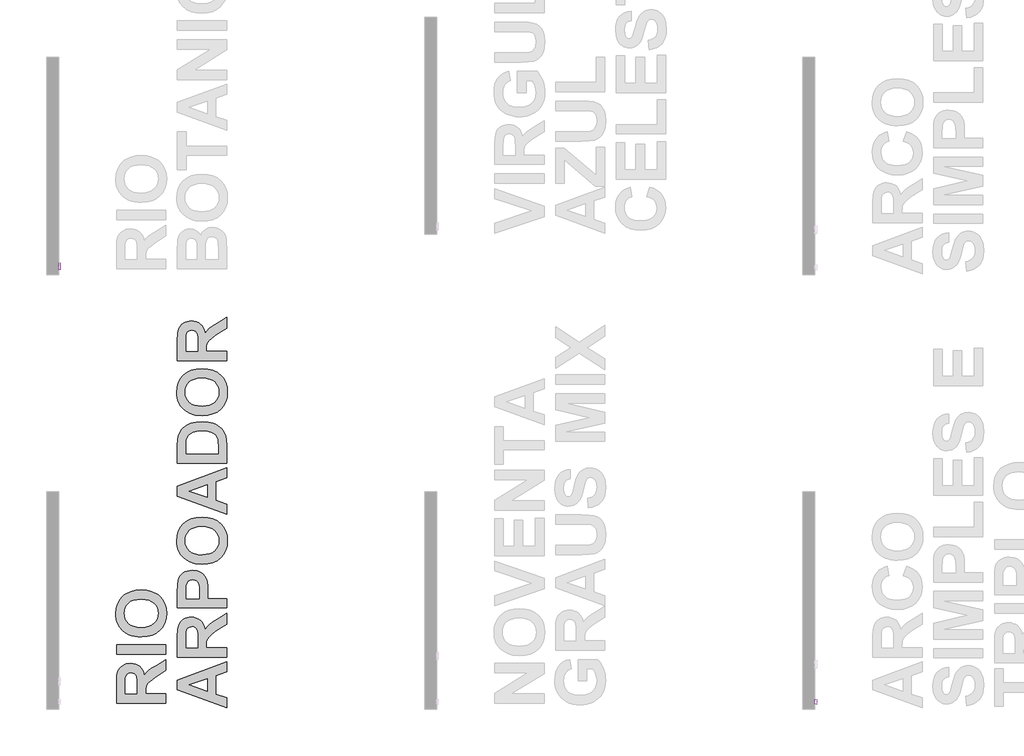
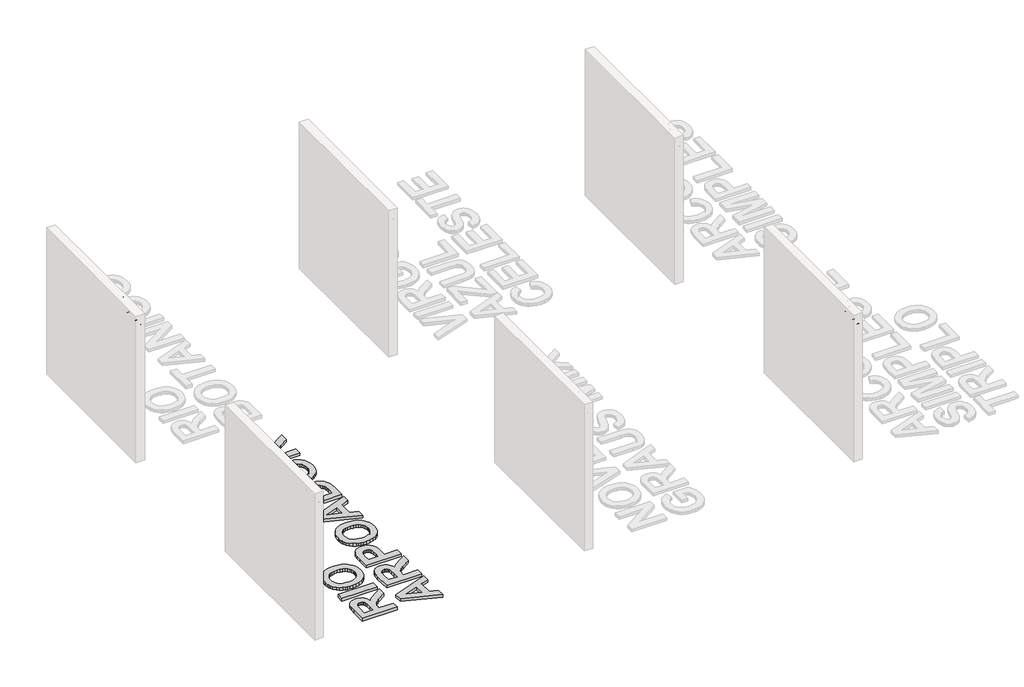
# One storey, part 3 of 12: 4 proxies.
"""IFC4 building model written with IfcOpenShell, lengths in millimetres."""

from ifc_helpers import new_model, si_unit, frame, origin, origin_with_axes, place, context, project, spatial, polyline, outline, extrude, element, save

model = new_model("IFC4")

# Units and contexts
model_context = context("Model", 3, world=origin())
ifc_project = project(units=[si_unit("LENGTHUNIT", "METRE", prefix="MILLI")], contexts=[model_context])

# Site, building, storey
site = spatial("IfcSite", under=ifc_project)
building = spatial("IfcBuilding", under=site)
storey = spatial("IfcBuildingStorey", under=building, Name="PORTOBELLO - SHOWROOM", Elevation=0.0)

# Proxies
placement = place(None, origin())
element("IfcBuildingElementProxy", 1, Name="10mm Arial", ObjectType="10mm Arial", at=placement, inside=storey, context=model_context, shape_type="SweptSolid", body=[
    extrude(outline(polyline([(-3764.9115358, 2548.8308244), (-3764.9115358, 2649.2871345), (-3721.6240877, 2649.2871345), (-3701.525468, 2646.5770705), (-3690.5380591, 2636.9876132), (-3686.4300435, 2621.7940868), (-3688.1314977, 2611.8980611), (-3693.2358604, 2603.6942926), (-3701.8964157, 2597.679422), (-3714.2664478, 2594.3500899), (-3707.1295371, 2588.9790128), (-3696.9514686, 2576.054092), (-3680.2005751, 2548.8308244), (-3694.7932275, 2548.8308244), (-3707.8653011, 2569.6529453), (-3717.3076056, 2583.4362574), (-3723.9417443, 2589.9477687), (-3729.9136953, 2592.3390017), (-3737.1977588, 2592.7804601), (-3752.354497, 2592.7804601), (-3752.354497, 2548.8308244), (-3764.9115358, 2548.8308244)]), holes=[polyline([(-3752.354497, 2605.3374988), (-3724.2483126, 2605.3374988), (-3709.9131775, 2607.1155952), (-3701.7707227, 2612.8055033), (-3698.9870823, 2621.3281029), (-3704.2968457, 2632.3890882), (-3721.0845275, 2636.7300958), (-3752.354497, 2636.7300958), (-3752.354497, 2605.3374988)])]), frame((3902.9163978, 0.0, 0.0), z_axis=(1.0, 0.0, 0.0), x_axis=(0.0, 1.0, 0.0)), (0.0, 0.0, 1.0), 20.0),
    extrude(outline(polyline([(3922.9163978, -3653.4678167), (3922.9163978, -3666.0248555), (3902.9163978, -3666.0248555), (3902.9163978, -3653.4678167), (3922.9163978, -3653.4678167)])), frame((0.0, 0.0, 2636.7300958), z_axis=(0.0, 0.0, 1.0), x_axis=(1.0, 0.0, 0.0)), (0.0, 0.0, 1.0), 12.5570388),
    extrude(outline(polyline([(3922.9163978, -3653.4678167), (3922.9163978, -3666.0248555), (3902.9163978, -3666.0248555), (3902.9163978, -3653.4678167), (3922.9163978, -3653.4678167)])), frame((0.0, 0.0, 2548.8308244), z_axis=(0.0, 0.0, 1.0), x_axis=(1.0, 0.0, 0.0)), (0.0, 0.0, 1.0), 73.7726028),
    extrude(outline(polyline([(-3637.7715183, 2585.7171258), (-3635.0553229, 2603.5042202), (-3626.9067367, 2616.0060767), (-3616.8390328, 2622.1313119), (-3604.784766, 2624.173057), (-3591.5931308, 2621.6867878), (-3581.0563774, 2614.2279804), (-3574.1493929, 2602.3852458), (-3571.8470647, 2586.7471954), (-3575.9182922, 2564.4044955), (-3587.7763551, 2551.7616176), (-3604.784766, 2547.2611945), (-3618.1358168, 2549.7382666), (-3628.6603075, 2557.1694829), (-3635.4937156, 2569.2605379), (-3637.7715183, 2585.7171258)]), holes=[polyline([(-3625.2144795, 2585.7416512), (-3623.7613456, 2574.3771633), (-3619.401944, 2566.2806937), (-3612.8413817, 2561.4338484), (-3604.784766, 2559.8182333), (-3596.7649385, 2561.4430455), (-3590.216639, 2566.3174819), (-3585.8572374, 2574.5212504), (-3584.4041035, 2586.1340587), (-3585.8664344, 2597.1674529), (-3590.2534272, 2605.1535578), (-3596.8109238, 2610.0004031), (-3604.784766, 2611.6160182), (-3612.8413817, 2610.0065345), (-3619.401944, 2605.1780833), (-3623.7613456, 2597.1000078), (-3625.2144795, 2585.7416512)])]), frame((3902.9163978, 0.0, 0.0), z_axis=(1.0, 0.0, 0.0), x_axis=(0.0, 1.0, 0.0)), (0.0, 0.0, 1.0), 20.0),
    extrude(outline(polyline([(-3516.9100201, 2548.8308244), (-3516.9100201, 2649.2871345), (-3478.5767162, 2649.2871345), (-3459.8024717, 2646.3318158), (-3448.716961, 2637.2451306), (-3444.7070472, 2624.3937862), (-3448.0792988, 2612.6583505), (-3458.2696301, 2603.767869), (-3445.8965323, 2594.3991409), (-3441.5677875, 2578.7764188), (-3444.5231062, 2565.2751496), (-3451.8439579, 2555.6611668), (-3462.7700532, 2550.5598698), (-3478.8710218, 2548.8308244), (-3516.9100201, 2548.8308244)]), holes=[polyline([(-3504.3529814, 2561.3878632), (-3478.6012417, 2561.3878632), (-3469.2815645, 2561.8783725), (-3461.3966271, 2564.612962), (-3456.1727027, 2570.1925056), (-3454.1248263, 2578.6537915), (-3456.528322, 2588.4149271), (-3464.3151576, 2594.2397253), (-3479.827515, 2595.9197198), (-3504.3529814, 2595.9197198), (-3504.3529814, 2561.3878632)]), polyline([(-3504.3529814, 2608.4767585), (-3481.4216703, 2608.4767585), (-3468.0307657, 2609.5558791), (-3459.97415, 2614.2034549), (-3457.264086, 2622.382698), (-3459.790209, 2630.5742037), (-3467.0252216, 2635.4179833), (-3483.1629784, 2636.7300958), (-3504.3529814, 2636.7300958), (-3504.3529814, 2608.4767585)])]), frame((3902.9163978, 0.0, 0.0), z_axis=(1.0, 0.0, 0.0), x_axis=(0.0, 1.0, 0.0)), (0.0, 0.0, 1.0), 20.0),
    extrude(outline(polyline([(-3429.0107487, 2585.7171258), (-3426.2945533, 2603.5042202), (-3418.1459672, 2616.0060767), (-3408.0782632, 2622.1313119), (-3396.0239965, 2624.173057), (-3382.8323613, 2621.6867878), (-3372.2956078, 2614.2279804), (-3365.3886234, 2602.3852458), (-3363.0862952, 2586.7471954), (-3367.1575226, 2564.4044955), (-3379.0155856, 2551.7616176), (-3396.0239965, 2547.2611945), (-3409.3750473, 2549.7382666), (-3419.899538, 2557.1694829), (-3426.7329461, 2569.2605379), (-3429.0107487, 2585.7171258)]), holes=[polyline([(-3416.45371, 2585.7416512), (-3415.0005761, 2574.3771633), (-3410.6411745, 2566.2806937), (-3404.0806122, 2561.4338484), (-3396.0239965, 2559.8182333), (-3388.004169, 2561.4430455), (-3381.4558695, 2566.3174819), (-3377.0964679, 2574.5212504), (-3375.643334, 2586.1340587), (-3377.1056649, 2597.1674529), (-3381.4926577, 2605.1535578), (-3388.0501543, 2610.0004031), (-3396.0239965, 2611.6160182), (-3404.0806122, 2610.0065345), (-3410.6411745, 2605.1780833), (-3415.0005761, 2597.1000078), (-3416.45371, 2585.7416512)])]), frame((3902.9163978, 0.0, 0.0), z_axis=(1.0, 0.0, 0.0), x_axis=(0.0, 1.0, 0.0)), (0.0, 0.0, 1.0), 20.0),
    extrude(outline(polyline([(-3322.2759192, 2559.3031985), (-3320.7062894, 2548.4629424), (-3330.099543, 2547.2611945), (-3340.620968, 2549.3458592), (-3345.8694178, 2554.8150382), (-3347.3899968, 2569.0643341), (-3347.3899968, 2610.0463884), (-3356.8077758, 2610.0463884), (-3356.8077758, 2622.6034272), (-3347.3899968, 2622.6034272), (-3347.3899968, 2640.531543), (-3334.832958, 2647.9137084), (-3334.832958, 2622.6034272), (-3322.2759192, 2622.6034272), (-3322.2759192, 2610.0463884), (-3334.832958, 2610.0463884), (-3334.832958, 2569.4322161), (-3334.1707704, 2562.957493), (-3332.0247921, 2560.6643619), (-3327.7450982, 2559.8182333), (-3322.2759192, 2559.3031985)])), frame((3902.9163978, 0.0, 0.0), z_axis=(1.0, 0.0, 0.0), x_axis=(0.0, 1.0, 0.0)), (0.0, 0.0, 1.0), 20.0),
    extrude(outline(polyline([(-3262.6299851, 2558.2486035), (-3274.8068791, 2549.7382666), (-3288.2590974, 2547.2611945), (-3298.7529313, 2548.7511166), (-3306.4937816, 2553.2208829), (-3311.2670505, 2560.0083057), (-3312.8581401, 2568.4511975), (-3310.4546444, 2578.3840113), (-3304.1393369, 2585.5944984), (-3295.3469572, 2589.7147768), (-3284.4821756, 2591.6032377), (-3262.7035615, 2595.9197198), (-3262.6299851, 2598.7156229), (-3266.0880758, 2607.9862492), (-3279.9694898, 2611.6160182), (-3292.6736813, 2609.2002598), (-3298.7314715, 2600.6286093), (-3311.2885103, 2602.1982392), (-3305.8561195, 2614.4609723), (-3294.9177615, 2621.646934), (-3278.350809, 2624.173057), (-3263.1327571, 2621.9412396), (-3254.5365812, 2616.3371705), (-3250.686083, 2607.8145709), (-3250.0729463, 2596.827162), (-3250.0729463, 2581.20444), (-3249.4352842, 2559.3890376), (-3246.9336866, 2548.8308244), (-3259.4907254, 2548.8308244), (-3262.6299851, 2558.2486035)]), holes=[polyline([(-3262.6299851, 2583.362681), (-3282.8880203, 2579.5121828), (-3293.6914882, 2577.4765691), (-3298.5843187, 2574.1656311), (-3300.3011014, 2569.3341142), (-3296.5609678, 2562.5405601), (-3285.5858216, 2559.8182333), (-3272.88163, 2562.8226029), (-3264.6901242, 2570.0944037), (-3262.7035615, 2579.8064884), (-3262.6299851, 2583.362681)])]), frame((3902.9163978, 0.0, 0.0), z_axis=(1.0, 0.0, 0.0), x_axis=(0.0, 1.0, 0.0)), (0.0, 0.0, 1.0), 20.0),
    extrude(outline(polyline([(-3232.807018, 2548.8308244), (-3232.807018, 2622.6034272), (-3220.2499792, 2622.6034272), (-3220.2499792, 2612.3027313), (-3210.6482591, 2621.2054756), (-3197.5393974, 2624.173057), (-3185.6813344, 2621.781824), (-3177.5879305, 2615.5033046), (-3173.8232714, 2606.2694666), (-3173.1610838, 2594.1293607), (-3173.1610838, 2548.8308244), (-3185.7181226, 2548.8308244), (-3185.7181226, 2592.4371035), (-3187.1651251, 2603.5471398), (-3192.2786849, 2609.420989), (-3200.8993863, 2611.6160182), (-3214.5232828, 2606.6863995), (-3218.8183051, 2599.5433574), (-3220.2499792, 2587.9734687), (-3220.2499792, 2548.8308244), (-3232.807018, 2548.8308244)])), frame((3902.9163978, 0.0, 0.0), z_axis=(1.0, 0.0, 0.0), x_axis=(0.0, 1.0, 0.0)), (0.0, 0.0, 1.0), 20.0),
    extrude(outline(polyline([(3922.9163978, -3143.3381168), (3922.9163978, -3155.8951555), (3902.9163978, -3155.8951555), (3902.9163978, -3143.3381168), (3922.9163978, -3143.3381168)])), frame((0.0, 0.0, 2636.7300958), z_axis=(0.0, 0.0, 1.0), x_axis=(1.0, 0.0, 0.0)), (0.0, 0.0, 1.0), 12.5570388),
    extrude(outline(polyline([(3922.9163978, -3143.3381168), (3922.9163978, -3155.8951555), (3902.9163978, -3155.8951555), (3902.9163978, -3143.3381168), (3922.9163978, -3143.3381168)])), frame((0.0, 0.0, 2548.8308244), z_axis=(0.0, 0.0, 1.0), x_axis=(1.0, 0.0, 0.0)), (0.0, 0.0, 1.0), 73.7726028),
    extrude(outline(polyline([(-3077.4136632, 2575.5145318), (-3064.8566245, 2573.9449019), (-3068.3576348, 2562.7766177), (-3074.9365911, 2554.3367916), (-3083.9742255, 2549.0300938), (-3094.8512698, 2547.2611945), (-3108.2084519, 2549.7290696), (-3118.6532349, 2557.1326947), (-3125.3946724, 2569.1471076), (-3127.6418183, 2585.4473456), (-3123.8035828, 2606.3062548), (-3112.1049354, 2619.7094221), (-3095.0229481, 2624.173057), (-3084.4126182, 2622.6402154), (-3075.9298725, 2618.0416904), (-3069.8444912, 2610.6227368), (-3066.4262543, 2600.6286093), (-3078.9832931, 2599.0589795), (-3084.8080913, 2608.4644958), (-3094.9248462, 2611.6160182), (-3103.0397099, 2610.0647825), (-3109.4807105, 2605.4110752), (-3113.6837623, 2597.4035105), (-3115.0847795, 2585.7907022), (-3113.7144191, 2574.021544), (-3109.6033378, 2565.9863881), (-3103.2788332, 2561.360272), (-3095.2682027, 2559.8182333), (-3083.4346652, 2563.6687315), (-3077.4136632, 2575.5145318)])), frame((3902.9163978, 0.0, 0.0), z_axis=(1.0, 0.0, 0.0), x_axis=(0.0, 1.0, 0.0)), (0.0, 0.0, 1.0), 20.0),
    extrude(outline(polyline([(-3057.0084752, 2585.7171258), (-3054.2922798, 2603.5042202), (-3046.1436936, 2616.0060767), (-3036.0759897, 2622.1313119), (-3024.021723, 2624.173057), (-3010.8300878, 2621.6867878), (-3000.2933343, 2614.2279804), (-2993.3863498, 2602.3852458), (-2991.0840217, 2586.7471954), (-2995.1552491, 2564.4044955), (-3007.0133121, 2551.7616176), (-3024.021723, 2547.2611945), (-3037.3727737, 2549.7382666), (-3047.8972645, 2557.1694829), (-3054.7306725, 2569.2605379), (-3057.0084752, 2585.7171258)]), holes=[polyline([(-3044.4514365, 2585.7416512), (-3042.9983026, 2574.3771633), (-3038.6389009, 2566.2806937), (-3032.0783387, 2561.4338484), (-3024.021723, 2559.8182333), (-3016.0018955, 2561.4430455), (-3009.453596, 2566.3174819), (-3005.0941943, 2574.5212504), (-3003.6410605, 2586.1340587), (-3005.1033914, 2597.1674529), (-3009.4903842, 2605.1535578), (-3016.0478807, 2610.0004031), (-3024.021723, 2611.6160182), (-3032.0783387, 2610.0065345), (-3038.6389009, 2605.1780833), (-3042.9983026, 2597.1000078), (-3044.4514365, 2585.7416512)])]), frame((3902.9163978, 0.0, 0.0), z_axis=(1.0, 0.0, 0.0), x_axis=(0.0, 1.0, 0.0)), (0.0, 0.0, 1.0), 20.0),
])
element("IfcBuildingElementProxy", 2, Name="10mm Arial Narrow", ObjectType="10mm Arial Narrow", at=placement, inside=storey, context=model_context, shape_type="SweptSolid", body=[
    extrude(outline(polyline([(-9167.7764767, 2398.8308244), (-9167.7764767, 2499.5494281), (-9136.479592, 2499.5494281), (-9120.1838905, 2497.6711074), (-9108.7109044, 2488.1906642), (-9104.4212259, 2471.1715554), (-9106.2075343, 2459.0957299), (-9111.5664595, 2449.4693361), (-9121.3102484, 2443.1680777), (-9136.2511476, 2441.0676582), (-9158.029515, 2441.0676582), (-9158.029515, 2398.8308244), (-9167.7764767, 2398.8308244)]), holes=[polyline([(-9158.029515, 2452.4391135), (-9135.0581601, 2452.4391135), (-9119.1939647, 2456.9699277), (-9114.1681876, 2470.6385184), (-9116.6430021, 2480.8042949), (-9122.6206309, 2486.6042447), (-9135.2866045, 2488.1779729), (-9158.029515, 2488.1779729), (-9158.029515, 2452.4391135)])]), frame((13302.9163978, 0.0, 0.0), z_axis=(1.0, 0.0, 0.0), x_axis=(0.0, 1.0, 0.0)), (0.0, 0.0, 1.0), 20.0),
    extrude(outline(polyline([(-9096.2987579, 2435.3819306), (-9094.344289, 2451.9727061), (-9088.4808824, 2463.9247909), (-9079.6223157, 2471.1493455), (-9068.6823665, 2473.5575304), (-9057.869331, 2471.1493455), (-9048.9853815, 2463.9247909), (-9043.0458268, 2452.1630765), (-9041.0659752, 2436.143412), (-9043.0109255, 2418.9815254), (-9048.8457766, 2406.8390702), (-9057.6948248, 2399.6145156), (-9068.6823665, 2397.2063308), (-9079.5429947, 2399.6208613), (-9088.4174256, 2406.8644529), (-9094.3284248, 2418.8228834), (-9096.2987579, 2435.3819306)]), holes=[polyline([(-9086.5517962, 2435.4073133), (-9085.2477594, 2422.8555619), (-9081.3356488, 2413.9843038), (-9075.494452, 2408.7110453), (-9068.4031567, 2406.9532924), (-9061.6830835, 2408.7269095), (-9055.9910102, 2414.0477606), (-9052.1074552, 2422.9348829), (-9050.8129368, 2435.4073133), (-9052.1169737, 2447.9209906), (-9056.0290843, 2456.7795573), (-9061.870281, 2462.0528159), (-9068.9615764, 2463.8105687), (-9075.7292421, 2462.0432974), (-9081.4117969, 2456.7414833), (-9085.2667964, 2447.873398), (-9086.5517962, 2435.4073133)])]), frame((13302.9163978, 0.0, 0.0), z_axis=(1.0, 0.0, 0.0), x_axis=(0.0, 1.0, 0.0)), (0.0, 0.0, 1.0), 20.0),
    extrude(outline(polyline([(-8969.5882564, 2406.9532924), (-8967.9637628, 2397.2063308), (-8975.3247495, 2397.2063308), (-8983.5995138, 2399.3257873), (-8987.9145749, 2405.1257371), (-8989.0821797, 2419.7715623), (-8989.0821797, 2462.1860751), (-8997.2046478, 2462.1860751), (-8997.2046478, 2465.4350624), (-8998.8291414, 2460.5615815), (-9006.3931897, 2462.1860751), (-9012.4723494, 2459.8635569), (-9016.3432131, 2453.3782738), (-9018.3230647, 2437.9709673), (-9018.3230647, 2398.8308244), (-9028.0700263, 2398.8308244), (-9028.0700263, 2471.9330368), (-9018.3230647, 2471.9330368), (-9018.3230647, 2462.2368406), (-9012.0789174, 2471.3238517), (-9005.6824738, 2473.5575304), (-8997.2046478, 2471.9330368), (-8989.0821797, 2471.9330368), (-8989.0821797, 2488.1779729), (-8979.3352181, 2496.3004409), (-8979.3352181, 2471.9330368), (-8969.5882564, 2471.9330368), (-8969.5882564, 2462.1860751), (-8979.3352181, 2462.1860751), (-8979.3352181, 2417.5378836), (-8978.4722058, 2409.5423291), (-8973.8525521, 2406.9532924), (-8969.5882564, 2406.9532924)])), frame((13302.9163978, 0.0, 0.0), z_axis=(1.0, 0.0, 0.0), x_axis=(0.0, 1.0, 0.0)), (0.0, 0.0, 1.0), 20.0),
    extrude(outline(polyline([(-8963.090282, 2435.3819306), (-8961.1358131, 2451.9727061), (-8955.2724065, 2463.9247909), (-8946.4138398, 2471.1493455), (-8935.4738906, 2473.5575304), (-8924.660855, 2471.1493455), (-8915.7769056, 2463.9247909), (-8909.8373508, 2452.1630765), (-8907.8574993, 2436.143412), (-8909.8024496, 2418.9815254), (-8915.6373007, 2406.8390702), (-8924.4863489, 2399.6145156), (-8935.4738906, 2397.2063308), (-8946.3345188, 2399.6208613), (-8955.2089497, 2406.8644529), (-8961.1199489, 2418.8228834), (-8963.090282, 2435.3819306)]), holes=[polyline([(-8953.3433203, 2435.4073133), (-8952.0392834, 2422.8555619), (-8948.1271729, 2413.9843038), (-8942.2859761, 2408.7110453), (-8935.1946808, 2406.9532924), (-8928.4746076, 2408.7269095), (-8922.7825343, 2414.0477606), (-8918.8989793, 2422.9348829), (-8917.6044609, 2435.4073133), (-8918.9084978, 2447.9209906), (-8922.8206084, 2456.7795573), (-8928.6618051, 2462.0528159), (-8935.7531005, 2463.8105687), (-8942.5207662, 2462.0432974), (-8948.203321, 2456.7414833), (-8952.0583205, 2447.873398), (-8953.3433203, 2435.4073133)])]), frame((13302.9163978, 0.0, 0.0), z_axis=(1.0, 0.0, 0.0), x_axis=(0.0, 1.0, 0.0)), (0.0, 0.0, 1.0), 20.0),
    extrude(outline(polyline([(-8885.1145887, 2398.8308244), (-8894.8615504, 2398.8308244), (-8894.8615504, 2499.5494281), (-8885.1145887, 2499.5494281), (-8885.1145887, 2464.140544), (-8877.715528, 2471.2223208), (-8868.5142947, 2473.5575304), (-8855.632568, 2469.3566915), (-8846.3551865, 2456.6272611), (-8842.8777549, 2435.9403503), (-8844.8100139, 2419.4860068), (-8850.6067909, 2407.2832677), (-8858.9799132, 2399.725565), (-8868.6412082, 2397.2063308), (-8877.9820465, 2399.8207502), (-8885.1145887, 2407.5878602), (-8885.1145887, 2398.8308244)]), holes=[polyline([(-8885.1145887, 2435.9403503), (-8883.0332063, 2418.692797), (-8877.144417, 2409.9611439), (-8868.6919737, 2406.9532924), (-8862.7492461, 2408.7427737), (-8857.5108887, 2414.1112174), (-8852.6247166, 2435.5342269), (-8857.3332098, 2456.9699277), (-8862.5779128, 2462.1004085), (-8868.8950354, 2463.8105687), (-8874.8726642, 2462.0210875), (-8880.1649598, 2456.6526438), (-8885.1145887, 2435.9403503)])]), frame((13302.9163978, 0.0, 0.0), z_axis=(1.0, 0.0, 0.0), x_axis=(0.0, 1.0, 0.0)), (0.0, 0.0, 1.0), 20.0),
    extrude(outline(polyline([(-8790.8939594, 2421.5737349), (-8781.1469978, 2419.9492413), (-8784.8465281, 2410.0626747), (-8790.665515, 2402.9428238), (-8798.3691683, 2398.640454), (-8807.7226979, 2397.2063308), (-8819.3162519, 2399.6208613), (-8828.4603741, 2406.8644529), (-8834.3999289, 2418.6705872), (-8836.3797805, 2434.7727455), (-8834.3904104, 2451.4396692), (-8828.4223001, 2463.6201984), (-8819.4082642, 2471.0731974), (-8808.2811176, 2473.5575304), (-8797.5981684, 2471.1588641), (-8788.8506511, 2463.962865), (-8783.0158, 2452.2233604), (-8781.0708496, 2436.1941774), (-8781.1469978, 2432.9451902), (-8826.6328188, 2432.9451902), (-8820.6298073, 2413.5020323), (-8814.699771, 2408.5904774), (-8807.5957843, 2406.9532924), (-8797.4173166, 2410.608403), (-8790.8939594, 2421.5737349)]), holes=[polyline([(-8825.9728683, 2442.6921518), (-8790.8939594, 2442.6921518), (-8795.1582551, 2456.9572363), (-8800.9835877, 2462.0972356), (-8808.2049694, 2463.8105687), (-8820.4140542, 2458.0994584), (-8825.9728683, 2442.6921518)])]), frame((13302.9163978, 0.0, 0.0), z_axis=(1.0, 0.0, 0.0), x_axis=(0.0, 1.0, 0.0)), (0.0, 0.0, 1.0), 20.0),
    extrude(outline(polyline([(13322.9163978, -8758.4040872), (13322.9163978, -8768.1510489), (13302.9163978, -8768.1510489), (13302.9163978, -8758.4040872), (13322.9163978, -8758.4040872)])), frame((0.0, 0.0, 2398.8308244), z_axis=(0.0, 0.0, 1.0), x_axis=(1.0, 0.0, 0.0)), (0.0, 0.0, 1.0), 100.7186038),
    extrude(outline(polyline([(13322.9163978, -8732.4121895), (13322.9163978, -8742.1591512), (13302.9163978, -8742.1591512), (13302.9163978, -8732.4121895), (13322.9163978, -8732.4121895)])), frame((0.0, 0.0, 2398.8308244), z_axis=(0.0, 0.0, 1.0), x_axis=(1.0, 0.0, 0.0)), (0.0, 0.0, 1.0), 100.7186038),
    extrude(outline(polyline([(-8721.0407342, 2435.3819306), (-8719.0862654, 2451.9727061), (-8713.2228587, 2463.9247909), (-8704.364292, 2471.1493455), (-8693.4243429, 2473.5575304), (-8682.6113073, 2471.1493455), (-8673.7273579, 2463.9247909), (-8667.7878031, 2452.1630765), (-8665.8079515, 2436.143412), (-8667.7529019, 2418.9815254), (-8673.587753, 2406.8390702), (-8682.4368012, 2399.6145156), (-8693.4243429, 2397.2063308), (-8704.2849711, 2399.6208613), (-8713.159402, 2406.8644529), (-8719.0704012, 2418.8228834), (-8721.0407342, 2435.3819306)]), holes=[polyline([(-8711.2937726, 2435.4073133), (-8709.9897357, 2422.8555619), (-8706.0776251, 2413.9843038), (-8700.2364284, 2408.7110453), (-8693.145133, 2406.9532924), (-8686.4250599, 2408.7269095), (-8680.7329866, 2414.0477606), (-8676.8494315, 2422.9348829), (-8675.5549132, 2435.4073133), (-8676.85895, 2447.9209906), (-8680.7710606, 2456.7795573), (-8686.6122574, 2462.0528159), (-8693.7035527, 2463.8105687), (-8700.4712185, 2462.0432974), (-8706.1537733, 2456.7414833), (-8710.0087728, 2447.873398), (-8711.2937726, 2435.4073133)])]), frame((13302.9163978, 0.0, 0.0), z_axis=(1.0, 0.0, 0.0), x_axis=(0.0, 1.0, 0.0)), (0.0, 0.0, 1.0), 20.0),
])
element("IfcBuildingElementProxy", 3, Name="10mm Arial Narrow", ObjectType="10mm Arial Narrow", at=placement, inside=storey, context=model_context, shape_type="SweptSolid", body=[
    extrude(outline(polyline([(-3767.7764767, 2398.8308244), (-3767.7764767, 2499.5494281), (-3736.479592, 2499.5494281), (-3720.1838905, 2497.6711074), (-3708.7109044, 2488.1906642), (-3704.4212259, 2471.1715554), (-3706.2075343, 2459.0957299), (-3711.5664595, 2449.4693361), (-3721.3102484, 2443.1680777), (-3736.2511476, 2441.0676582), (-3758.029515, 2441.0676582), (-3758.029515, 2398.8308244), (-3767.7764767, 2398.8308244)]), holes=[polyline([(-3758.029515, 2452.4391135), (-3735.0581601, 2452.4391135), (-3719.1939647, 2456.9699277), (-3714.1681876, 2470.6385184), (-3716.6430021, 2480.8042949), (-3722.6206309, 2486.6042447), (-3735.2866045, 2488.1779729), (-3758.029515, 2488.1779729), (-3758.029515, 2452.4391135)])]), frame((3902.9163978, 0.0, 0.0), z_axis=(1.0, 0.0, 0.0), x_axis=(0.0, 1.0, 0.0)), (0.0, 0.0, 1.0), 20.0),
    extrude(outline(polyline([(-3696.2987579, 2435.3819306), (-3694.344289, 2451.9727061), (-3688.4808824, 2463.9247909), (-3679.6223157, 2471.1493455), (-3668.6823665, 2473.5575304), (-3657.869331, 2471.1493455), (-3648.9853815, 2463.9247909), (-3643.0458268, 2452.1630765), (-3641.0659752, 2436.143412), (-3643.0109255, 2418.9815254), (-3648.8457766, 2406.8390702), (-3657.6948248, 2399.6145156), (-3668.6823665, 2397.2063308), (-3679.5429947, 2399.6208613), (-3688.4174256, 2406.8644529), (-3694.3284248, 2418.8228834), (-3696.2987579, 2435.3819306)]), holes=[polyline([(-3686.5517962, 2435.4073133), (-3685.2477594, 2422.8555619), (-3681.3356488, 2413.9843038), (-3675.494452, 2408.7110453), (-3668.4031567, 2406.9532924), (-3661.6830835, 2408.7269095), (-3655.9910102, 2414.0477606), (-3652.1074552, 2422.9348829), (-3650.8129368, 2435.4073133), (-3652.1169737, 2447.9209906), (-3656.0290843, 2456.7795573), (-3661.870281, 2462.0528159), (-3668.9615764, 2463.8105687), (-3675.7292421, 2462.0432974), (-3681.4117969, 2456.7414833), (-3685.2667964, 2447.873398), (-3686.5517962, 2435.4073133)])]), frame((3902.9163978, 0.0, 0.0), z_axis=(1.0, 0.0, 0.0), x_axis=(0.0, 1.0, 0.0)), (0.0, 0.0, 1.0), 20.0),
    extrude(outline(polyline([(-3569.5882564, 2406.9532924), (-3567.9637628, 2397.2063308), (-3575.3247495, 2397.2063308), (-3583.5995138, 2399.3257873), (-3587.9145749, 2405.1257371), (-3589.0821797, 2419.7715623), (-3589.0821797, 2462.1860751), (-3597.2046478, 2462.1860751), (-3597.2046478, 2465.4350624), (-3598.8291414, 2460.5615815), (-3606.3931897, 2462.1860751), (-3612.4723494, 2459.8635569), (-3616.3432131, 2453.3782738), (-3618.3230647, 2437.9709673), (-3618.3230647, 2398.8308244), (-3628.0700263, 2398.8308244), (-3628.0700263, 2471.9330368), (-3618.3230647, 2471.9330368), (-3618.3230647, 2462.2368406), (-3612.0789174, 2471.3238517), (-3605.6824738, 2473.5575304), (-3597.2046478, 2471.9330368), (-3589.0821797, 2471.9330368), (-3589.0821797, 2488.1779729), (-3579.3352181, 2496.3004409), (-3579.3352181, 2471.9330368), (-3569.5882564, 2471.9330368), (-3569.5882564, 2462.1860751), (-3579.3352181, 2462.1860751), (-3579.3352181, 2417.5378836), (-3578.4722058, 2409.5423291), (-3573.8525521, 2406.9532924), (-3569.5882564, 2406.9532924)])), frame((3902.9163978, 0.0, 0.0), z_axis=(1.0, 0.0, 0.0), x_axis=(0.0, 1.0, 0.0)), (0.0, 0.0, 1.0), 20.0),
    extrude(outline(polyline([(-3563.090282, 2435.3819306), (-3561.1358131, 2451.9727061), (-3555.2724065, 2463.9247909), (-3546.4138398, 2471.1493455), (-3535.4738906, 2473.5575304), (-3524.660855, 2471.1493455), (-3515.7769056, 2463.9247909), (-3509.8373508, 2452.1630765), (-3507.8574993, 2436.143412), (-3509.8024496, 2418.9815254), (-3515.6373007, 2406.8390702), (-3524.4863489, 2399.6145156), (-3535.4738906, 2397.2063308), (-3546.3345188, 2399.6208613), (-3555.2089497, 2406.8644529), (-3561.1199489, 2418.8228834), (-3563.090282, 2435.3819306)]), holes=[polyline([(-3553.3433203, 2435.4073133), (-3552.0392834, 2422.8555619), (-3548.1271729, 2413.9843038), (-3542.2859761, 2408.7110453), (-3535.1946808, 2406.9532924), (-3528.4746076, 2408.7269095), (-3522.7825343, 2414.0477606), (-3518.8989793, 2422.9348829), (-3517.6044609, 2435.4073133), (-3518.9084978, 2447.9209906), (-3522.8206084, 2456.7795573), (-3528.6618051, 2462.0528159), (-3535.7531005, 2463.8105687), (-3542.5207662, 2462.0432974), (-3548.203321, 2456.7414833), (-3552.0583205, 2447.873398), (-3553.3433203, 2435.4073133)])]), frame((3902.9163978, 0.0, 0.0), z_axis=(1.0, 0.0, 0.0), x_axis=(0.0, 1.0, 0.0)), (0.0, 0.0, 1.0), 20.0),
    extrude(outline(polyline([(-3485.1145887, 2398.8308244), (-3494.8615504, 2398.8308244), (-3494.8615504, 2499.5494281), (-3485.1145887, 2499.5494281), (-3485.1145887, 2464.140544), (-3477.715528, 2471.2223208), (-3468.5142947, 2473.5575304), (-3455.632568, 2469.3566915), (-3446.3551865, 2456.6272611), (-3442.8777549, 2435.9403503), (-3444.8100139, 2419.4860068), (-3450.6067909, 2407.2832677), (-3458.9799132, 2399.725565), (-3468.6412082, 2397.2063308), (-3477.9820465, 2399.8207502), (-3485.1145887, 2407.5878602), (-3485.1145887, 2398.8308244)]), holes=[polyline([(-3485.1145887, 2435.9403503), (-3483.0332063, 2418.692797), (-3477.144417, 2409.9611439), (-3468.6919737, 2406.9532924), (-3462.7492461, 2408.7427737), (-3457.5108887, 2414.1112174), (-3452.6247166, 2435.5342269), (-3457.3332098, 2456.9699277), (-3462.5779128, 2462.1004085), (-3468.8950354, 2463.8105687), (-3474.8726642, 2462.0210875), (-3480.1649598, 2456.6526438), (-3485.1145887, 2435.9403503)])]), frame((3902.9163978, 0.0, 0.0), z_axis=(1.0, 0.0, 0.0), x_axis=(0.0, 1.0, 0.0)), (0.0, 0.0, 1.0), 20.0),
    extrude(outline(polyline([(-3390.8939594, 2421.5737349), (-3381.1469978, 2419.9492413), (-3384.8465281, 2410.0626747), (-3390.665515, 2402.9428238), (-3398.3691683, 2398.640454), (-3407.7226979, 2397.2063308), (-3419.3162519, 2399.6208613), (-3428.4603741, 2406.8644529), (-3434.3999289, 2418.6705872), (-3436.3797805, 2434.7727455), (-3434.3904104, 2451.4396692), (-3428.4223001, 2463.6201984), (-3419.4082642, 2471.0731974), (-3408.2811176, 2473.5575304), (-3397.5981684, 2471.1588641), (-3388.8506511, 2463.962865), (-3383.0158, 2452.2233604), (-3381.0708496, 2436.1941774), (-3381.1469978, 2432.9451902), (-3426.6328188, 2432.9451902), (-3420.6298073, 2413.5020323), (-3414.699771, 2408.5904774), (-3407.5957843, 2406.9532924), (-3397.4173166, 2410.608403), (-3390.8939594, 2421.5737349)]), holes=[polyline([(-3425.9728683, 2442.6921518), (-3390.8939594, 2442.6921518), (-3395.1582551, 2456.9572363), (-3400.9835877, 2462.0972356), (-3408.2049694, 2463.8105687), (-3420.4140542, 2458.0994584), (-3425.9728683, 2442.6921518)])]), frame((3902.9163978, 0.0, 0.0), z_axis=(1.0, 0.0, 0.0), x_axis=(0.0, 1.0, 0.0)), (0.0, 0.0, 1.0), 20.0),
    extrude(outline(polyline([(3922.9163978, -3358.4040872), (3922.9163978, -3368.1510489), (3902.9163978, -3368.1510489), (3902.9163978, -3358.4040872), (3922.9163978, -3358.4040872)])), frame((0.0, 0.0, 2398.8308244), z_axis=(0.0, 0.0, 1.0), x_axis=(1.0, 0.0, 0.0)), (0.0, 0.0, 1.0), 100.7186038),
    extrude(outline(polyline([(3922.9163978, -3332.4121895), (3922.9163978, -3342.1591512), (3902.9163978, -3342.1591512), (3902.9163978, -3332.4121895), (3922.9163978, -3332.4121895)])), frame((0.0, 0.0, 2398.8308244), z_axis=(0.0, 0.0, 1.0), x_axis=(1.0, 0.0, 0.0)), (0.0, 0.0, 1.0), 100.7186038),
    extrude(outline(polyline([(-3321.0407342, 2435.3819306), (-3319.0862654, 2451.9727061), (-3313.2228587, 2463.9247909), (-3304.364292, 2471.1493455), (-3293.4243429, 2473.5575304), (-3282.6113073, 2471.1493455), (-3273.7273579, 2463.9247909), (-3267.7878031, 2452.1630765), (-3265.8079515, 2436.143412), (-3267.7529019, 2418.9815254), (-3273.587753, 2406.8390702), (-3282.4368012, 2399.6145156), (-3293.4243429, 2397.2063308), (-3304.2849711, 2399.6208613), (-3313.159402, 2406.8644529), (-3319.0704012, 2418.8228834), (-3321.0407342, 2435.3819306)]), holes=[polyline([(-3311.2937726, 2435.4073133), (-3309.9897357, 2422.8555619), (-3306.0776251, 2413.9843038), (-3300.2364284, 2408.7110453), (-3293.145133, 2406.9532924), (-3286.4250599, 2408.7269095), (-3280.7329866, 2414.0477606), (-3276.8494315, 2422.9348829), (-3275.5549132, 2435.4073133), (-3276.85895, 2447.9209906), (-3280.7710606, 2456.7795573), (-3286.6122574, 2462.0528159), (-3293.7035527, 2463.8105687), (-3300.4712185, 2462.0432974), (-3306.1537733, 2456.7414833), (-3310.0087728, 2447.873398), (-3311.2937726, 2435.4073133)])]), frame((3902.9163978, 0.0, 0.0), z_axis=(1.0, 0.0, 0.0), x_axis=(0.0, 1.0, 0.0)), (0.0, 0.0, 1.0), 20.0),
])
element("IfcBuildingElementProxy", 4, Name="600mm Arial", ObjectType="600mm Arial", at=placement, inside=storey, context=model_context, shape_type="SweptSolid", body=[
    extrude(outline(polyline([(5236.2154342, -9153.3523318), (4624.0597942, -9153.3523318), (4624.0597942, -8895.8582928), (4628.1970068, -8811.9753585), (4633.3685226, -8779.997362), (4640.6086446, -8754.6616794), (4650.4962032, -8733.7478799), (4663.6100284, -8715.0355331), (4679.9501204, -8698.5246387), (4699.516479, -8684.215197), (4721.4645816, -8672.657571), (4744.9499054, -8664.4021238), (4769.9724504, -8659.4488556), (4796.5322166, -8657.7977661), (4829.6394064, -8660.1842546), (4859.7290879, -8667.34372), (4886.8012612, -8679.2761623), (4910.8559262, -8695.9815815), (4931.3142527, -8717.4409996), (4947.5974105, -8743.6354385), (4959.7053997, -8774.5648982), (4967.6382201, -8810.2293789), (4992.0060228, -8776.4105126), (5018.6511901, -8749.0441797), (5057.2525223, -8720.7289449), (5117.4888195, -8684.0633727), (5236.2154342, -8609.2139852), (5236.2154342, -8745.4003961), (5096.3852397, -8834.0657964), (5042.6963661, -8876.8992314), (5013.4132513, -8903.677245), (4999.0089193, -8922.9968892), (4989.9563945, -8943.4552157), (4985.1739286, -8970.6127901), (4983.5797733, -9010.030178), (4983.5797733, -9036.7512575), (5236.2154342, -9036.7512575), (5236.2154342, -9153.3523318)]), holes=[polyline([(4876.6954552, -9036.7512575), (4876.6954552, -8940.6464658), (4874.9304975, -8864.7912422), (4869.6356245, -8823.9694794), (4860.0327366, -8803.2075043), (4845.343734, -8787.5316437), (4825.9671558, -8777.6820412), (4802.3015406, -8774.3988404), (4776.0928681, -8778.7258334), (4755.4637393, -8791.7068124), (4740.907583, -8812.5826557), (4732.9178284, -8840.5942419), (4730.9441123, -8935.3326148), (4730.9441123, -9036.7512575), (4876.6954552, -9036.7512575)])]), origin_with_axes(), (0.0, 0.0, 1.0), 50.0),
    extrude(outline(polyline([(5236.2154342, -8541.1966918), (4624.0597942, -8541.1966918), (4624.0597942, -8424.5956176), (5236.2154342, -8424.5956176), (5236.2154342, -8541.1966918)])), origin_with_axes(), (0.0, 0.0, 1.0), 50.0),
    extrude(outline(polyline([(4933.9332221, -8327.4280557), (4889.126071, -8325.7105431), (4848.0765717, -8320.5580054), (4810.7847242, -8311.9704425), (4777.2505285, -8299.9478546), (4733.0127186, -8275.7128982), (4693.5194186, -8244.0005943), (4661.1998174, -8206.8605711), (4638.4831042, -8166.3424569), (4627.9218253, -8137.1732103), (4620.3780546, -8105.8404672), (4615.8517922, -8072.3442276), (4614.343038, -8036.6844915), (4619.5762324, -7973.5825104), (4635.2758155, -7917.1228431), (4661.4417874, -7867.3054896), (4698.074148, -7824.1304499), (4720.0281813, -7805.4489423), (4744.024726, -7789.2583024), (4798.14535, -7764.3496257), (4860.4360199, -7749.4044196), (4930.8967358, -7744.4226843), (5000.8782562, -7749.3664635), (5062.7941099, -7764.1978013), (5116.6442968, -7788.9166977), (5140.5447652, -7804.9839803), (5162.4288169, -7823.5231526), (5198.9615428, -7866.4135217), (5225.056347, -7915.9841607), (5240.7132296, -7972.2350696), (5245.9321904, -8035.1662484), (5240.7369521, -8098.7616585), (5225.1512372, -8155.4870184), (5199.1750457, -8205.342328), (5162.8083777, -8248.3275873), (5117.3322507, -8282.9340422), (5064.0276824, -8307.6529386), (5002.8946729, -8322.4842764), (4933.9332221, -8327.4280557)]), holes=[polyline([(4929.6821413, -8210.8269814), (4978.1046089, -8207.7288164), (5020.2833015, -8198.4343216), (5056.2182192, -8182.9434969), (5085.9093619, -8161.2563424), (5109.1574602, -8134.7962109), (5125.7632447, -8104.9864555), (5135.7267154, -8071.8270761), (5139.0478723, -8035.3180727), (5135.750438, -7998.8470254), (5125.8581349, -7965.8015143), (5109.3709631, -7936.1815392), (5086.2889227, -7909.9871003), (5056.6120135, -7888.5656383), (5020.3402356, -7873.264594), (4977.4735891, -7864.0839674), (4928.0120738, -7861.0237585), (4879.2385125, -7864.0033107), (4837.0693088, -7872.9419673), (4801.5044629, -7887.8397283), (4772.5439748, -7908.6965936), (4750.0929541, -7934.4877492), (4734.0565108, -7964.1883809), (4724.4346448, -7997.7984887), (4721.2273561, -8035.3180727), (4724.4726009, -8072.8756127), (4734.2083351, -8106.5995888), (4750.4345588, -8136.4900009), (4773.151272, -8162.5468491), (4802.4059198, -8183.6694069), (4838.2459473, -8198.7569483), (4880.6713544, -8207.8094731), (4929.6821413, -8210.8269814)])]), origin_with_axes(), (0.0, 0.0, 1.0), 50.0),
    extrude(outline(polyline([(5991.6835332, -8638.3642537), (5991.6835332, -8760.8864763), (5855.6489466, -8808.86296), (5855.6489466, -9040.0913925), (5991.6835332, -9087.4605789), (5991.6835332, -9211.652869), (5379.5278933, -8988.1674766), (5379.5278933, -8863.9751865), (5991.6835332, -8638.3642537)]), holes=[polyline([(5748.7646285, -8846.2117416), (5525.2792361, -8925.0085613), (5748.7646285, -9002.7426109), (5748.7646285, -8846.2117416)])]), origin_with_axes(), (0.0, 0.0, 1.0), 50.0),
    extrude(outline(polyline([(5991.6835332, -8580.0637166), (5379.5278933, -8580.0637166), (5379.5278933, -8322.5696776), (5383.6651059, -8238.6867433), (5388.8366216, -8206.7087468), (5396.0767437, -8181.3730642), (5405.9643022, -8160.4592647), (5419.0781275, -8141.7469178), (5435.4182194, -8125.2360235), (5454.9845781, -8110.9265818), (5476.9326807, -8099.3689558), (5500.4180045, -8091.1135086), (5525.4405495, -8086.1602403), (5552.0003156, -8084.5091509), (5585.1075054, -8086.8956394), (5615.197187, -8094.0551047), (5642.2693602, -8105.987547), (5666.3240252, -8122.6929662), (5686.7823517, -8144.1523843), (5703.0655095, -8170.3468233), (5715.1734987, -8201.276283), (5723.1063192, -8236.9407636), (5747.4741218, -8203.1218974), (5774.1192892, -8175.7555645), (5812.7206214, -8147.4403297), (5872.9569186, -8110.7747575), (5991.6835332, -8035.92537), (5991.6835332, -8172.1117809), (5851.8533387, -8260.7771812), (5798.1644651, -8303.6106162), (5768.8813503, -8330.3886298), (5754.4770184, -8349.708274), (5745.4244936, -8370.1666005), (5740.6420276, -8397.3241749), (5739.0478723, -8436.7415628), (5739.0478723, -8463.4626423), (5991.6835332, -8463.4626423), (5991.6835332, -8580.0637166)]), holes=[polyline([(5632.1635542, -8463.4626423), (5632.1635542, -8367.3578506), (5630.3985965, -8291.502627), (5625.1037235, -8250.6808642), (5615.5008356, -8229.918889), (5600.8118331, -8214.2430285), (5581.4352548, -8204.393426), (5557.7696396, -8201.1102252), (5531.5609672, -8205.4372182), (5510.9318383, -8218.4181972), (5496.3756821, -8239.2940405), (5488.3859275, -8267.3056267), (5486.4122114, -8362.0439996), (5486.4122114, -8463.4626423), (5632.1635542, -8463.4626423)])]), origin_with_axes(), (0.0, 0.0, 1.0), 50.0),
    extrude(outline(polyline([(5991.6835332, -7967.9080766), (5379.5278933, -7967.9080766), (5379.5278933, -7770.6882908), (5381.805258, -7678.0375023), (5388.6373522, -7624.481475), (5397.4858631, -7599.3592953), (5410.3672074, -7576.3721451), (5427.281385, -7555.5200242), (5448.228396, -7536.8029329), (5472.8571467, -7521.3595533), (5500.8165433, -7510.3285678), (5532.1065858, -7503.7099766), (5566.7272742, -7501.5037795), (5618.2906074, -7506.6847843), (5640.7273945, -7513.1610402), (5660.934262, -7522.2277986), (5695.0188208, -7545.7605675), (5720.9048666, -7574.910836), (5739.0288943, -7607.116569), (5749.8273987, -7639.8157309), (5756.3178882, -7694.6622649), (5758.4813847, -7769.6255206), (5758.4813847, -7851.3070023), (5991.6835332, -7851.3070023), (5991.6835332, -7967.9080766)]), holes=[polyline([(5486.4122114, -7851.3070023), (5651.5970666, -7851.3070023), (5651.5970666, -7778.8868039), (5649.3197019, -7713.6592823), (5642.4876077, -7674.3557627), (5630.7781573, -7650.8609498), (5613.8687242, -7633.0595489), (5592.7841224, -7621.8435276), (5568.549166, -7618.1048538), (5539.5886779, -7623.3617707), (5516.1697772, -7639.1325215), (5499.3931903, -7662.9120049), (5490.3596436, -7692.1951197), (5486.4122114, -7787.3889655), (5486.4122114, -7851.3070023)])]), origin_with_axes(), (0.0, 0.0, 1.0), 50.0),
    extrude(outline(polyline([(5689.4013211, -7423.76973), (5644.59417, -7422.0522174), (5603.5446708, -7416.8996797), (5566.2528233, -7408.3121169), (5532.7186276, -7396.2895289), (5488.4808177, -7372.0545725), (5448.9875176, -7340.3422686), (5416.6679164, -7303.2022455), (5393.9512032, -7262.6841313), (5383.3899243, -7233.5148847), (5375.8461536, -7202.1821416), (5371.3198912, -7168.685902), (5369.8111371, -7133.0261659), (5375.0443315, -7069.9241847), (5390.7439146, -7013.4645174), (5416.9098864, -6963.6471639), (5453.5422471, -6920.4721242), (5475.4962803, -6901.7906166), (5499.492825, -6885.5999767), (5553.613449, -6860.6913), (5615.9041189, -6845.7460939), (5686.3648348, -6840.7643586), (5756.3463553, -6845.7081379), (5818.2622089, -6860.5394757), (5872.1123958, -6885.258372), (5896.0128642, -6901.3256547), (5917.8969159, -6919.8648269), (5954.4296418, -6962.7551961), (5980.5244461, -7012.3258351), (5996.1813286, -7068.5767439), (6001.4002894, -7131.5079227), (5996.2050511, -7195.1033328), (5980.6193363, -7251.8286927), (5954.6431448, -7301.6840023), (5918.2764767, -7344.6692616), (5872.8003497, -7379.2757165), (5819.4957815, -7403.9946129), (5758.3627719, -7418.8259507), (5689.4013211, -7423.76973)]), holes=[polyline([(5685.1502403, -7307.1686557), (5733.5727079, -7304.0704908), (5775.7514006, -7294.775996), (5811.6863182, -7279.2851713), (5841.3774609, -7257.5980167), (5864.6255592, -7231.1378852), (5881.2313437, -7201.3281298), (5891.1948144, -7168.1687504), (5894.5159713, -7131.659747), (5891.218537, -7095.1886997), (5881.3262339, -7062.1431886), (5864.8390622, -7032.5232135), (5841.7570217, -7006.3287746), (5812.0801126, -6984.9073126), (5775.8083347, -6969.6062683), (5732.9416881, -6960.4256417), (5683.4801728, -6957.3654329), (5634.7066115, -6960.3449851), (5592.5374079, -6969.2836416), (5556.972562, -6984.1814026), (5528.0120738, -7005.0382679), (5505.5610532, -7030.8294235), (5489.5246098, -7060.5300552), (5479.9027438, -7094.1401631), (5476.6954552, -7131.659747), (5479.9406999, -7169.2172871), (5489.6764341, -7202.9412631), (5505.9026579, -7232.8316752), (5528.6193711, -7258.8885234), (5557.8740189, -7280.0110813), (5593.7140463, -7295.0986226), (5636.1394535, -7304.1511474), (5685.1502403, -7307.1686557)])]), origin_with_axes(), (0.0, 0.0, 1.0), 50.0),
    extrude(outline(polyline([(5991.6835332, -6228.6087186), (5991.6835332, -6351.1309412), (5855.6489466, -6399.1074249), (5855.6489466, -6630.3358573), (5991.6835332, -6677.7050438), (5991.6835332, -6801.8973338), (5379.5278933, -6578.4119414), (5379.5278933, -6454.2196514), (5991.6835332, -6228.6087186)]), holes=[polyline([(5748.7646285, -6436.4562065), (5525.2792361, -6515.2530262), (5748.7646285, -6592.9870757), (5748.7646285, -6436.4562065)])]), origin_with_axes(), (0.0, 0.0, 1.0), 50.0),
    extrude(outline(polyline([(5379.5278933, -6170.3081815), (5379.5278933, -5943.6344785), (5382.4505113, -5876.0726581), (5391.2183656, -5826.7297556), (5400.7216188, -5800.6729074), (5413.2898254, -5776.5518193), (5428.9229854, -5754.3664912), (5447.6210988, -5734.1169231), (5468.9903712, -5715.988151), (5492.6370083, -5700.1652106), (5546.7623768, -5675.4368252), (5577.8151938, -5666.6357594), (5612.2935469, -5660.3492838), (5691.5268616, -5655.3201034), (5761.8215196, -5660.0266572), (5821.7921242, -5674.1463185), (5853.5993183, -5686.918539), (5882.2182018, -5702.1579047), (5907.6487746, -5719.8644155), (5929.8910369, -5740.0380714), (5957.7507987, -5777.9182381), (5978.7784664, -5827.1852285), (5988.4572665, -5875.1237561), (5991.6835332, -5936.9542086), (5991.6835332, -6170.3081815), (5379.5278933, -6170.3081815)]), holes=[polyline([(5486.4122114, -6053.7071072), (5884.7992152, -6053.7071072), (5884.7992152, -5954.4140049), (5883.3568842, -5906.4375212), (5879.0298912, -5873.9471177), (5869.1423326, -5844.3603542), (5854.0547913, -5820.2772221), (5830.6928247, -5800.9006439), (5795.9819906, -5785.4335417), (5748.2332434, -5775.2992687), (5685.7575376, -5771.9211777), (5624.1548216, -5775.2992687), (5578.7213952, -5785.4335417), (5545.4718701, -5801.6218094), (5520.420858, -5823.1618841), (5502.8851496, -5850.6610633), (5492.1815354, -5884.7266441), (5487.8545424, -5925.9849018), (5486.4122114, -5993.8883269), (5486.4122114, -6053.7071072)])]), origin_with_axes(), (0.0, 0.0, 1.0), 50.0),
    extrude(outline(polyline([(5689.4013211, -5577.5860539), (5644.59417, -5575.8685413), (5603.5446708, -5570.7160036), (5566.2528233, -5562.1284408), (5532.7186276, -5550.1058528), (5488.4808177, -5525.8708964), (5448.9875176, -5494.1585925), (5416.6679164, -5457.0185693), (5393.9512032, -5416.5004552), (5383.3899243, -5387.3312085), (5375.8461536, -5355.9984654), (5371.3198912, -5322.5022258), (5369.8111371, -5286.8424897), (5375.0443315, -5223.7405086), (5390.7439146, -5167.2808413), (5416.9098864, -5117.4634878), (5453.5422471, -5074.2884481), (5475.4962803, -5055.6069405), (5499.492825, -5039.4163006), (5553.613449, -5014.5076239), (5615.9041189, -4999.5624178), (5686.3648348, -4994.5806825), (5756.3463553, -4999.5244617), (5818.2622089, -5014.3557996), (5872.1123958, -5039.0746959), (5896.0128642, -5055.1419786), (5917.8969159, -5073.6811508), (5954.4296418, -5116.5715199), (5980.5244461, -5166.1421589), (5996.1813286, -5222.3930678), (6001.4002894, -5285.3242466), (5996.2050511, -5348.9196567), (5980.6193363, -5405.6450166), (5954.6431448, -5455.5003262), (5918.2764767, -5498.4855855), (5872.8003497, -5533.0920404), (5819.4957815, -5557.8109368), (5758.3627719, -5572.6422746), (5689.4013211, -5577.5860539)]), holes=[polyline([(5685.1502403, -5460.9849796), (5733.5727079, -5457.8868147), (5775.7514006, -5448.5923198), (5811.6863182, -5433.1014952), (5841.3774609, -5411.4143406), (5864.6255592, -5384.9542091), (5881.2313437, -5355.1444537), (5891.1948144, -5321.9850743), (5894.5159713, -5285.4760709), (5891.218537, -5249.0050236), (5881.3262339, -5215.9595125), (5864.8390622, -5186.3395374), (5841.7570217, -5160.1450985), (5812.0801126, -5138.7236365), (5775.8083347, -5123.4225922), (5732.9416881, -5114.2419656), (5683.4801728, -5111.1817567), (5634.7066115, -5114.1613089), (5592.5374079, -5123.0999655), (5556.972562, -5137.9977265), (5528.0120738, -5158.8545918), (5505.5610532, -5184.6457474), (5489.5246098, -5214.3463791), (5479.9027438, -5247.9564869), (5476.6954552, -5285.4760709), (5479.9406999, -5323.0336109), (5489.6764341, -5356.757587), (5505.9026579, -5386.6479991), (5528.6193711, -5412.7048473), (5557.8740189, -5433.8274052), (5593.7140463, -5448.9149465), (5636.1394535, -5457.9674713), (5685.1502403, -5460.9849796)])]), origin_with_axes(), (0.0, 0.0, 1.0), 50.0),
    extrude(outline(polyline([(5991.6835332, -4897.4131206), (5379.5278933, -4897.4131206), (5379.5278933, -4639.9190815), (5383.6651059, -4556.0361472), (5388.8366216, -4524.0581508), (5396.0767437, -4498.7224681), (5405.9643022, -4477.8086687), (5419.0781275, -4459.0963218), (5435.4182194, -4442.5854275), (5454.9845781, -4428.2759858), (5476.9326807, -4416.7183597), (5500.4180045, -4408.4629126), (5525.4405495, -4403.5096443), (5552.0003156, -4401.8585549), (5585.1075054, -4404.2450433), (5615.197187, -4411.4045087), (5642.2693602, -4423.336951), (5666.3240252, -4440.0423702), (5686.7823517, -4461.5017883), (5703.0655095, -4487.6962272), (5715.1734987, -4518.625687), (5723.1063192, -4554.2901676), (5747.4741218, -4520.4713013), (5774.1192892, -4493.1049685), (5812.7206214, -4464.7897336), (5872.9569186, -4428.1241614), (5991.6835332, -4353.2747739), (5991.6835332, -4489.4611849), (5851.8533387, -4578.1265851), (5798.1644651, -4620.9600201), (5768.8813503, -4647.7380338), (5754.4770184, -4667.0576779), (5745.4244936, -4687.5160044), (5740.6420276, -4714.6735789), (5739.0478723, -4754.0909668), (5739.0478723, -4780.8120463), (5991.6835332, -4780.8120463), (5991.6835332, -4897.4131206)]), holes=[polyline([(5632.1635542, -4780.8120463), (5632.1635542, -4684.7072546), (5630.3985965, -4608.852031), (5625.1037235, -4568.0302682), (5615.5008356, -4547.268293), (5600.8118331, -4531.5924324), (5581.4352548, -4521.74283), (5557.7696396, -4518.4596292), (5531.5609672, -4522.7866221), (5510.9318383, -4535.7676011), (5496.3756821, -4556.6434445), (5488.3859275, -4584.6550307), (5486.4122114, -4679.3934036), (5486.4122114, -4780.8120463), (5632.1635542, -4780.8120463)])]), origin_with_axes(), (0.0, 0.0, 1.0), 50.0),
])

save(model, "model.ifc")
